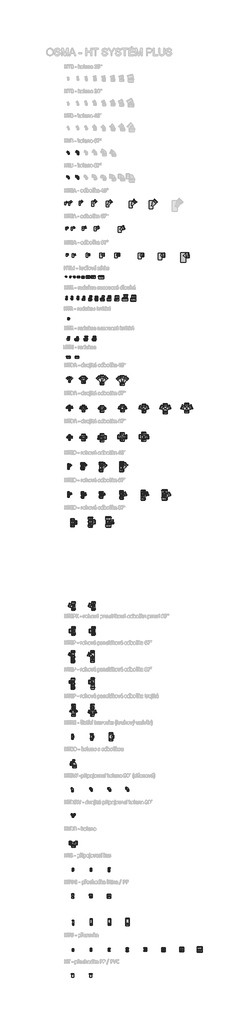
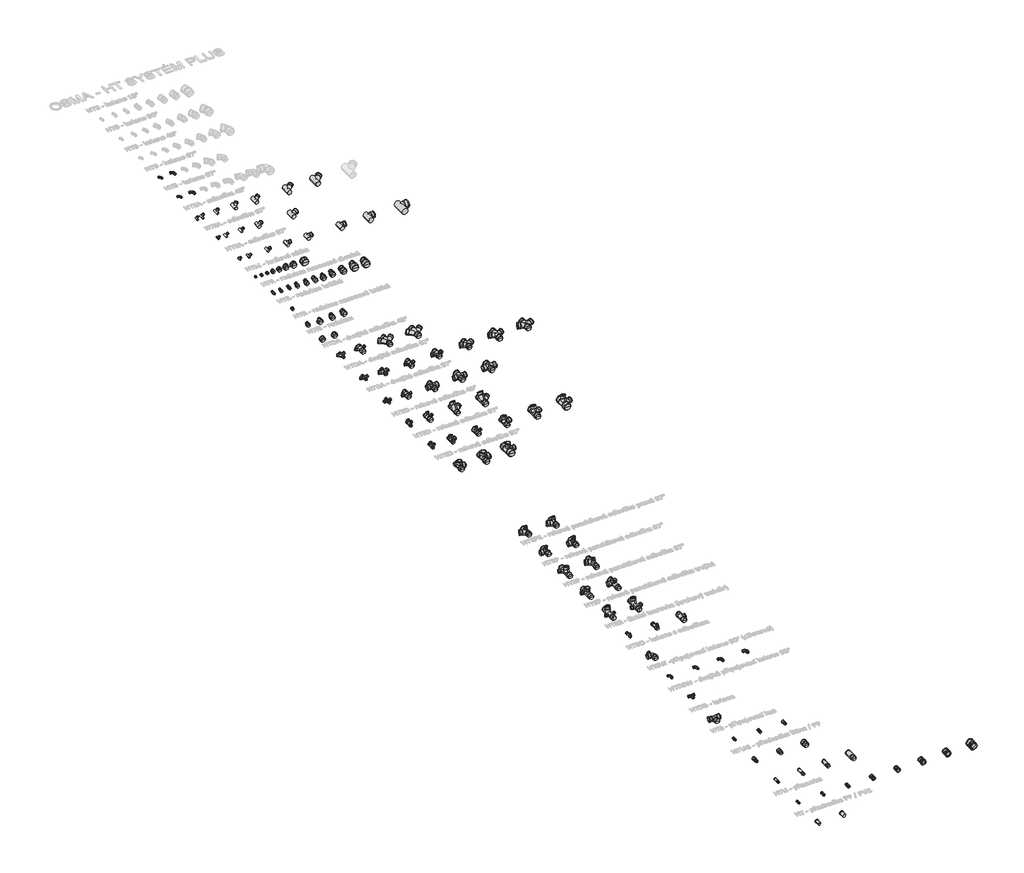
# One storey, part 1 of 26: 119 pipe fittings.
"""IFC4 building model written with IfcOpenShell, lengths in millimetres."""

from ifc_helpers import new_model, si_unit, origin, place, context, project, spatial, transform, mapped, element, save
from components import pipe_fitting_2ed9f6e7, pipe_fitting_8b978a5b, pipe_fitting_4528dc95, pipe_fitting_2cff288d, pipe_fitting_507c36dd, pipe_fitting_28f08a16, pipe_fitting_a69c1298, pipe_fitting_6399dcb3, pipe_fitting_55c88e06, pipe_fitting_f05a0327, pipe_fitting_c00d96c8, pipe_fitting_aadd152d, pipe_fitting_f14f61f6, pipe_fitting_60c93445, pipe_fitting_c0a3192c, pipe_fitting_b5a4c82e, pipe_fitting_0b0d437f, pipe_fitting_80fb3df5, pipe_fitting_b3aaeca4, pipe_fitting_336e07cd, pipe_fitting_70a3d614, pipe_fitting_bba1077c, pipe_fitting_2327c108, pipe_fitting_f7b55dbd, pipe_fitting_f0e1eda1, pipe_fitting_e0f2e87f, pipe_fitting_54cbae7a, pipe_fitting_0927ca27, pipe_fitting_798e2620, pipe_fitting_61e1075e, pipe_fitting_059f0d56, pipe_fitting_82c68f0e, pipe_fitting_7cd02927, pipe_fitting_a8bb613b, pipe_fitting_23628242, pipe_fitting_fd22e1d2, pipe_fitting_ccd48016, pipe_fitting_6e051af4, pipe_fitting_f5e5154a, pipe_fitting_384131f0, pipe_fitting_4c61564b, pipe_fitting_ac615eb9, pipe_fitting_2f1c8c0b, pipe_fitting_aed6ab42, pipe_fitting_0c0664dd, pipe_fitting_72a4b356, pipe_fitting_6e352d12, pipe_fitting_f6564ba2, pipe_fitting_c82004ce, pipe_fitting_35a15b8a, pipe_fitting_4ba81610, pipe_fitting_c2e4f513, pipe_fitting_c042d8dd, pipe_fitting_d99bf9d8, pipe_fitting_665a8a78, pipe_fitting_c704f223, pipe_fitting_5465bcce, pipe_fitting_72bf3672, pipe_fitting_739406a7, pipe_fitting_cdb1fdf9, pipe_fitting_8f208a38, pipe_fitting_5b2e1e2c, pipe_fitting_9d3bda9e, pipe_fitting_ae554451, pipe_fitting_4f15dcb3, pipe_fitting_1fac66fd, pipe_fitting_027d220c, pipe_fitting_1ce450aa, pipe_fitting_2de2056f, pipe_fitting_466a4f67, pipe_fitting_7ade68ef, pipe_fitting_702bc343, pipe_fitting_09d01d97, pipe_fitting_725b9d8f, pipe_fitting_23abaf8c, pipe_fitting_8e6235ef, pipe_fitting_1529bc69, pipe_fitting_c0e0c10d, pipe_fitting_c5070b6b, pipe_fitting_a5771a54, pipe_fitting_3548051f, pipe_fitting_a80d6788, pipe_fitting_33424f75, pipe_fitting_c7929656, pipe_fitting_0050a4eb, pipe_fitting_f10fd5be, pipe_fitting_9c596fd1, pipe_fitting_a152be7c, pipe_fitting_18b1635c, pipe_fitting_d7963361, pipe_fitting_fa9bb480, pipe_fitting_6385da66, pipe_fitting_79d1944f, pipe_fitting_8715ee71, pipe_fitting_b25ac495, pipe_fitting_57054826, pipe_fitting_a8834416, pipe_fitting_0bfdb319, pipe_fitting_e86e1e86, pipe_fitting_10db389b, pipe_fitting_b7105bf4, pipe_fitting_1bf1d1fd, pipe_fitting_71ddc9da, pipe_fitting_2f180cf2, pipe_fitting_aec229c0, pipe_fitting_05d55db8, pipe_fitting_428694dd, pipe_fitting_3d81adcc, pipe_fitting_6fac2806, pipe_fitting_e290757c, pipe_fitting_a816e6ad, pipe_fitting_9d72f216, pipe_fitting_50fed7b4, pipe_fitting_034da0cb, pipe_fitting_b09aef8b, pipe_fitting_e545edde, pipe_fitting_5e0d7752, pipe_fitting_c43976f1, pipe_fitting_2e858e45

model = new_model("IFC4")

# Units and contexts
model_context = context("Model", 3, world=origin())
ifc_project = project(units=[si_unit("LENGTHUNIT", "METRE", prefix="MILLI")], contexts=[model_context])

# Site, building, storey
site = spatial("IfcSite", under=ifc_project)
building = spatial("IfcBuilding", under=site)
storey = spatial("IfcBuildingStorey", under=building, Name="Podlaží 1", Elevation=0.0)

# Pipe fittings
placement = place(None, origin())
pipe_fitting_shape = pipe_fitting_2ed9f6e7(model_context)
element("IfcPipeFitting", 1, ObjectType="pf_HTSW : pf_HTSW", at=placement, inside=storey, context=model_context, shape_type="MappedRepresentation", body=[
    mapped(pipe_fitting_shape, transform((-20279.9309018, -2513.7868887, 0.0), x_axis=(0.0, 1.0, 0.0), y_axis=(-1.0, 0.0, 0.0), z_axis=(0.0, 0.0, 1.0))),
])
pipe_fitting_2_shape = pipe_fitting_8b978a5b(model_context)
element("IfcPipeFitting", 2, ObjectType="pf_HTSW : pf_HTSW", at=placement, inside=storey, context=model_context, shape_type="MappedRepresentation", body=[
    mapped(pipe_fitting_2_shape, transform((-18999.9309018, -2513.7868887, 0.0), x_axis=(0.0, 1.0, 0.0), y_axis=(-1.0, 0.0, 0.0), z_axis=(0.0, 0.0, 1.0))),
])
pipe_fitting_3_shape = pipe_fitting_4528dc95(model_context)
element("IfcPipeFitting", 3, ObjectType="pf_HTSW : pf_HTSW", at=placement, inside=storey, context=model_context, shape_type="MappedRepresentation", body=[
    mapped(pipe_fitting_3_shape, transform((-18379.9309018, -2513.7868887, 0.0), x_axis=(0.0, 1.0, 0.0), y_axis=(-1.0, 0.0, 0.0), z_axis=(0.0, 0.0, 1.0))),
])
pipe_fitting_4_shape = pipe_fitting_2cff288d(model_context)
element("IfcPipeFitting", 4, ObjectType="pf_HTS : pf_HTS", at=placement, inside=storey, context=model_context, shape_type="MappedRepresentation", body=[
    mapped(pipe_fitting_4_shape, transform((-19647.90786, -5285.5236889, 0.0), x_axis=(0.0, 1.0, 0.0), y_axis=(-1.0, 0.0, 0.0), z_axis=(0.0, 0.0, 1.0))),
])
pipe_fitting_5_shape = pipe_fitting_507c36dd(model_context)
element("IfcPipeFitting", 5, ObjectType="pf_HTS : pf_HTS", at=placement, inside=storey, context=model_context, shape_type="MappedRepresentation", body=[
    mapped(pipe_fitting_5_shape, transform((-20267.90786, -5285.5236889, 0.0), x_axis=(0.0, 1.0, 0.0), y_axis=(-1.0, 0.0, 0.0), z_axis=(0.0, 0.0, 1.0))),
])
pipe_fitting_6_shape = pipe_fitting_28f08a16(model_context)
element("IfcPipeFitting", 6, ObjectType="pf_HTS : pf_HTS", at=placement, inside=storey, context=model_context, shape_type="MappedRepresentation", body=[
    mapped(pipe_fitting_6_shape, transform((-19027.90786, -5285.5236889, 0.0), x_axis=(0.0, 1.0, 0.0), y_axis=(-1.0, 0.0, 0.0), z_axis=(0.0, 0.0, 1.0))),
])
pipe_fitting_7_shape = pipe_fitting_a69c1298(model_context)
element("IfcPipeFitting", 7, ObjectType="pf_HTUG : pf_HTUG", at=placement, inside=storey, context=model_context, shape_type="MappedRepresentation", body=[
    mapped(pipe_fitting_7_shape, transform((-20271.7083601, -6200.1944106, 0.0), x_axis=(0.0, 1.0, 0.0), y_axis=(-1.0, 0.0, 0.0), z_axis=(0.0, 0.0, 1.0))),
])
pipe_fitting_8_shape = pipe_fitting_6399dcb3(model_context)
element("IfcPipeFitting", 8, ObjectType="pf_HTUG : pf_HTUG", at=placement, inside=storey, context=model_context, shape_type="MappedRepresentation", body=[
    mapped(pipe_fitting_8_shape, transform((-19651.7083601, -6200.1944106, 0.0), x_axis=(0.0, 1.0, 0.0), y_axis=(-1.0, 0.0, 0.0), z_axis=(0.0, 0.0, 1.0))),
])
pipe_fitting_9_shape = pipe_fitting_55c88e06(model_context)
element("IfcPipeFitting", 9, ObjectType="pf_HTUG : pf_HTUG", at=placement, inside=storey, context=model_context, shape_type="MappedRepresentation", body=[
    mapped(pipe_fitting_9_shape, transform((-19031.7083601, -6200.1944106, 0.0), x_axis=(0.0, 1.0, 0.0), y_axis=(-1.0, 0.0, 0.0), z_axis=(0.0, 0.0, 1.0))),
])
pipe_fitting_10_shape = pipe_fitting_f05a0327(model_context)
element("IfcPipeFitting", 10, ObjectType="pf_HTL : pf_HTL", at=placement, inside=storey, context=model_context, shape_type="MappedRepresentation", body=[
    mapped(pipe_fitting_10_shape, transform((-20255.3754353, -7134.639147, 0.0), x_axis=(0.0, 1.0, 0.0), y_axis=(-1.0, 0.0, 0.0), z_axis=(0.0, 0.0, 1.0))),
])
pipe_fitting_11_shape = pipe_fitting_c00d96c8(model_context)
element("IfcPipeFitting", 11, ObjectType="pf_HTL : pf_HTL", at=placement, inside=storey, context=model_context, shape_type="MappedRepresentation", body=[
    mapped(pipe_fitting_11_shape, transform((-18395.3754353, -7144.639147, 0.0), x_axis=(0.0, 1.0, 0.0), y_axis=(-1.0, 0.0, 0.0), z_axis=(0.0, 0.0, 1.0))),
])
pipe_fitting_12_shape = pipe_fitting_aadd152d(model_context)
element("IfcPipeFitting", 12, ObjectType="pf_HTL : pf_HTL", at=placement, inside=storey, context=model_context, shape_type="MappedRepresentation", body=[
    mapped(pipe_fitting_12_shape, transform((-19015.3754353, -7144.639147, 0.0), x_axis=(0.0, 1.0, 0.0), y_axis=(-1.0, 0.0, 0.0), z_axis=(0.0, 0.0, 1.0))),
])
pipe_fitting_13_shape = pipe_fitting_f14f61f6(model_context)
element("IfcPipeFitting", 13, ObjectType="pf_HTL : pf_HTL", at=placement, inside=storey, context=model_context, shape_type="MappedRepresentation", body=[
    mapped(pipe_fitting_13_shape, transform((-19635.3754353, -7144.639147, 0.0), x_axis=(0.0, 1.0, 0.0), y_axis=(-1.0, 0.0, 0.0), z_axis=(0.0, 0.0, 1.0))),
])
pipe_fitting_14_shape = pipe_fitting_60c93445(model_context)
element("IfcPipeFitting", 14, ObjectType="pf_HTDA : pf_HTDA", at=placement, inside=storey, context=model_context, shape_type="MappedRepresentation", body=[
    mapped(pipe_fitting_14_shape, transform((-20381.3384973, 11461.0104637, 0.0), x_axis=(0.0, 1.0, 0.0), y_axis=(-1.0, 0.0, 0.0), z_axis=(0.0, 0.0, 1.0))),
])
pipe_fitting_15_shape = pipe_fitting_c0a3192c(model_context)
element("IfcPipeFitting", 15, ObjectType="pf_HTDA : pf_HTDA", at=placement, inside=storey, context=model_context, shape_type="MappedRepresentation", body=[
    mapped(pipe_fitting_15_shape, transform((-19906.3384973, 11424.6568635, 0.0), x_axis=(0.0, 1.0, 0.0), y_axis=(-1.0, 0.0, 0.0), z_axis=(0.0, 0.0, 1.0))),
])
pipe_fitting_16_shape = pipe_fitting_b5a4c82e(model_context)
element("IfcPipeFitting", 16, ObjectType="pf_HTDA : pf_HTDA", at=placement, inside=storey, context=model_context, shape_type="MappedRepresentation", body=[
    mapped(pipe_fitting_16_shape, transform((-19266.7405515, 11417.9767959, 0.0), x_axis=(0.0, 1.0, 0.0), y_axis=(-1.0, 0.0, 0.0), z_axis=(0.0, 0.0, 1.0))),
])
pipe_fitting_17_shape = pipe_fitting_0b0d437f(model_context)
element("IfcPipeFitting", 17, ObjectType="pf_HTDA : pf_HTDA", at=placement, inside=storey, context=model_context, shape_type="MappedRepresentation", body=[
    mapped(pipe_fitting_17_shape, transform((-18571.3384973, 11389.6568635, 0.0), x_axis=(0.0, 1.0, 0.0), y_axis=(-1.0, 0.0, 0.0), z_axis=(0.0, 0.0, 1.0))),
])
pipe_fitting_18_shape = pipe_fitting_80fb3df5(model_context)
element("IfcPipeFitting", 18, ObjectType="pf_HTDA : pf_HTDA", at=placement, inside=storey, context=model_context, shape_type="MappedRepresentation", body=[
    mapped(pipe_fitting_18_shape, transform((-20381.3384973, 10501.0104637, 0.0), x_axis=(0.0, 1.0, 0.0), y_axis=(-1.0, 0.0, 0.0), z_axis=(0.0, 0.0, 1.0))),
])
pipe_fitting_19_shape = pipe_fitting_b3aaeca4(model_context)
element("IfcPipeFitting", 19, ObjectType="pf_HTDA : pf_HTDA", at=placement, inside=storey, context=model_context, shape_type="MappedRepresentation", body=[
    mapped(pipe_fitting_19_shape, transform((-19266.7405515, 10457.9767959, 0.0), x_axis=(0.0, 1.0, 0.0), y_axis=(-1.0, 0.0, 0.0), z_axis=(0.0, 0.0, 1.0))),
])
pipe_fitting_20_shape = pipe_fitting_336e07cd(model_context)
element("IfcPipeFitting", 20, ObjectType="pf_HTDA : pf_HTDA", at=placement, inside=storey, context=model_context, shape_type="MappedRepresentation", body=[
    mapped(pipe_fitting_20_shape, transform((-18571.3384973, 10479.6568635, 0.0), x_axis=(0.0, 1.0, 0.0), y_axis=(-1.0, 0.0, 0.0), z_axis=(0.0, 0.0, 1.0))),
])
pipe_fitting_21_shape = pipe_fitting_70a3d614(model_context)
element("IfcPipeFitting", 21, ObjectType="pf_HTDA : pf_HTDA", at=placement, inside=storey, context=model_context, shape_type="MappedRepresentation", body=[
    mapped(pipe_fitting_21_shape, transform((-17836.3384973, 10479.6568635, 0.0), x_axis=(0.0, 1.0, 0.0), y_axis=(-1.0, 0.0, 0.0), z_axis=(0.0, 0.0, 1.0))),
])
pipe_fitting_22_shape = pipe_fitting_bba1077c(model_context)
element("IfcPipeFitting", 22, ObjectType="pf_HTDA : pf_HTDA", at=placement, inside=storey, context=model_context, shape_type="MappedRepresentation", body=[
    mapped(pipe_fitting_22_shape, transform((-17101.3384973, 10479.6568635, 0.0), x_axis=(0.0, 1.0, 0.0), y_axis=(-1.0, 0.0, 0.0), z_axis=(0.0, 0.0, 1.0))),
])
pipe_fitting_23_shape = pipe_fitting_2327c108(model_context)
element("IfcPipeFitting", 23, ObjectType="pf_HTDA : pf_HTDA", at=placement, inside=storey, context=model_context, shape_type="MappedRepresentation", body=[
    mapped(pipe_fitting_23_shape, transform((-16366.3384973, 10479.6568635, 0.0), x_axis=(0.0, 1.0, 0.0), y_axis=(-1.0, 0.0, 0.0), z_axis=(0.0, 0.0, 1.0))),
])
pipe_fitting_24_shape = pipe_fitting_f7b55dbd(model_context)
element("IfcPipeFitting", 24, ObjectType="pf_HTDA : pf_HTDA", at=placement, inside=storey, context=model_context, shape_type="MappedRepresentation", body=[
    mapped(pipe_fitting_24_shape, transform((-20381.3384973, 9511.0104637, 0.0), x_axis=(0.0, 1.0, 0.0), y_axis=(-1.0, 0.0, 0.0), z_axis=(0.0, 0.0, 1.0))),
])
pipe_fitting_25_shape = pipe_fitting_f0e1eda1(model_context)
element("IfcPipeFitting", 25, ObjectType="pf_HTDA : pf_HTDA", at=placement, inside=storey, context=model_context, shape_type="MappedRepresentation", body=[
    mapped(pipe_fitting_25_shape, transform((-19906.3384973, 9504.6568635, 0.0), x_axis=(0.0, 1.0, 0.0), y_axis=(-1.0, 0.0, 0.0), z_axis=(0.0, 0.0, 1.0))),
])
pipe_fitting_26_shape = pipe_fitting_e0f2e87f(model_context)
element("IfcPipeFitting", 26, ObjectType="pf_HTDA : pf_HTDA", at=placement, inside=storey, context=model_context, shape_type="MappedRepresentation", body=[
    mapped(pipe_fitting_26_shape, transform((-19266.7405515, 9497.9767959, 0.0), x_axis=(0.0, 1.0, 0.0), y_axis=(-1.0, 0.0, 0.0), z_axis=(0.0, 0.0, 1.0))),
])
pipe_fitting_27_shape = pipe_fitting_54cbae7a(model_context)
element("IfcPipeFitting", 27, ObjectType="pf_HTDA : pf_HTDA", at=placement, inside=storey, context=model_context, shape_type="MappedRepresentation", body=[
    mapped(pipe_fitting_27_shape, transform((-18571.3384973, 9519.6568635, 0.0), x_axis=(0.0, 1.0, 0.0), y_axis=(-1.0, 0.0, 0.0), z_axis=(0.0, 0.0, 1.0))),
])
pipe_fitting_28_shape = pipe_fitting_0927ca27(model_context)
element("IfcPipeFitting", 28, ObjectType="pf_HTDA : pf_HTDA", at=placement, inside=storey, context=model_context, shape_type="MappedRepresentation", body=[
    mapped(pipe_fitting_28_shape, transform((-17836.3384973, 9519.6568635, 0.0), x_axis=(0.0, 1.0, 0.0), y_axis=(-1.0, 0.0, 0.0), z_axis=(0.0, 0.0, 1.0))),
])
pipe_fitting_29_shape = pipe_fitting_798e2620(model_context)
element("IfcPipeFitting", 29, ObjectType="pf_HTDA : pf_HTDA", at=placement, inside=storey, context=model_context, shape_type="MappedRepresentation", body=[
    mapped(pipe_fitting_29_shape, transform((-19906.3384973, 10479.6568635, 0.0), x_axis=(0.0, 1.0, 0.0), y_axis=(-1.0, 0.0, 0.0), z_axis=(0.0, 0.0, 1.0))),
])
pipe_fitting_30_shape = pipe_fitting_61e1075e(model_context)
element("IfcPipeFitting", 30, ObjectType="pf_HTU : pf_HTU", at=placement, inside=storey, context=model_context, shape_type="MappedRepresentation", body=[
    mapped(pipe_fitting_30_shape, transform((-20264.014271, -8045.4755184, 0.0), x_axis=(0.0, 1.0, 0.0), y_axis=(-1.0, 0.0, 0.0), z_axis=(0.0, 0.0, 1.0))),
])
pipe_fitting_31_shape = pipe_fitting_059f0d56(model_context)
element("IfcPipeFitting", 31, ObjectType="pf_HTU : pf_HTU", at=placement, inside=storey, context=model_context, shape_type="MappedRepresentation", body=[
    mapped(pipe_fitting_31_shape, transform((-19644.014271, -8045.4755184, 0.0), x_axis=(0.0, 1.0, 0.0), y_axis=(-1.0, 0.0, 0.0), z_axis=(0.0, 0.0, 1.0))),
])
pipe_fitting_32_shape = pipe_fitting_82c68f0e(model_context)
element("IfcPipeFitting", 32, ObjectType="pf_HTU : pf_HTU", at=placement, inside=storey, context=model_context, shape_type="MappedRepresentation", body=[
    mapped(pipe_fitting_32_shape, transform((-19024.014271, -8045.4755184, 0.0), x_axis=(0.0, 1.0, 0.0), y_axis=(-1.0, 0.0, 0.0), z_axis=(0.0, 0.0, 1.0))),
])
pipe_fitting_33_shape = pipe_fitting_7cd02927(model_context)
element("IfcPipeFitting", 33, ObjectType="pf_HTU : pf_HTU", at=placement, inside=storey, context=model_context, shape_type="MappedRepresentation", body=[
    mapped(pipe_fitting_33_shape, transform((-18404.014271, -8045.4755184, 0.0), x_axis=(0.0, 1.0, 0.0), y_axis=(-1.0, 0.0, 0.0), z_axis=(0.0, 0.0, 1.0))),
])
pipe_fitting_34_shape = pipe_fitting_a8bb613b(model_context)
element("IfcPipeFitting", 34, ObjectType="pf_HTU : pf_HTU", at=placement, inside=storey, context=model_context, shape_type="MappedRepresentation", body=[
    mapped(pipe_fitting_34_shape, transform((-17784.014271, -8045.4755184, 0.0), x_axis=(0.0, 1.0, 0.0), y_axis=(-1.0, 0.0, 0.0), z_axis=(0.0, 0.0, 1.0))),
])
pipe_fitting_35_shape = pipe_fitting_23628242(model_context)
element("IfcPipeFitting", 35, ObjectType="pf_HTU : pf_HTU", at=placement, inside=storey, context=model_context, shape_type="MappedRepresentation", body=[
    mapped(pipe_fitting_35_shape, transform((-17164.014271, -8045.4755184, 0.0), x_axis=(0.0, 1.0, 0.0), y_axis=(-1.0, 0.0, 0.0), z_axis=(0.0, 0.0, 1.0))),
])
pipe_fitting_36_shape = pipe_fitting_fd22e1d2(model_context)
element("IfcPipeFitting", 36, ObjectType="pf_HTU : pf_HTU", at=placement, inside=storey, context=model_context, shape_type="MappedRepresentation", body=[
    mapped(pipe_fitting_36_shape, transform((-16544.014271, -8045.4755184, 0.0), x_axis=(0.0, 1.0, 0.0), y_axis=(-1.0, 0.0, 0.0), z_axis=(0.0, 0.0, 1.0))),
])
pipe_fitting_37_shape = pipe_fitting_ccd48016(model_context)
element("IfcPipeFitting", 37, ObjectType="pf_HTU : pf_HTU", at=placement, inside=storey, context=model_context, shape_type="MappedRepresentation", body=[
    mapped(pipe_fitting_37_shape, transform((-15924.014271, -8045.4755184, 0.0), x_axis=(0.0, 1.0, 0.0), y_axis=(-1.0, 0.0, 0.0), z_axis=(0.0, 0.0, 1.0))),
])
pipe_fitting_38_shape = pipe_fitting_6e051af4(model_context)
element("IfcPipeFitting", 38, ObjectType="pf_HT : pf_HT", at=placement, inside=storey, context=model_context, shape_type="MappedRepresentation", body=[
    mapped(pipe_fitting_38_shape, transform((-20273.1047893, -8920.4451797, 0.0), x_axis=(0.0, 1.0, 0.0), y_axis=(-1.0, 0.0, 0.0), z_axis=(0.0, 0.0, 1.0))),
])
pipe_fitting_39_shape = pipe_fitting_f5e5154a(model_context)
element("IfcPipeFitting", 39, ObjectType="pf_HT : pf_HT", at=placement, inside=storey, context=model_context, shape_type="MappedRepresentation", body=[
    mapped(pipe_fitting_39_shape, transform((-19653.1047893, -8920.4451797, 0.0), x_axis=(0.0, 1.0, 0.0), y_axis=(-1.0, 0.0, 0.0), z_axis=(0.0, 0.0, 1.0))),
])
pipe_fitting_40_shape = pipe_fitting_384131f0(model_context)
element("IfcPipeFitting", 40, ObjectType="pf_HTEA : pf_HTEA", at=placement, inside=storey, context=model_context, shape_type="MappedRepresentation", body=[
    mapped(pipe_fitting_40_shape, transform((-20481.3384973, 15769.6568635, 0.0), x_axis=(0.0, 1.0, 0.0), y_axis=(-1.0, 0.0, 0.0), z_axis=(0.0, 0.0, 1.0))),
])
pipe_fitting_41_shape = pipe_fitting_4c61564b(model_context)
element("IfcPipeFitting", 41, ObjectType="pf_HTEA : pf_HTEA", at=placement, inside=storey, context=model_context, shape_type="MappedRepresentation", body=[
    mapped(pipe_fitting_41_shape, transform((-20261.3384973, 15759.6568635, 0.0), x_axis=(0.0, 1.0, 0.0), y_axis=(-1.0, 0.0, 0.0), z_axis=(0.0, 0.0, 1.0))),
])
pipe_fitting_42_shape = pipe_fitting_ac615eb9(model_context)
element("IfcPipeFitting", 42, ObjectType="pf_HTEA : pf_HTEA", at=placement, inside=storey, context=model_context, shape_type="MappedRepresentation", body=[
    mapped(pipe_fitting_42_shape, transform((-19786.3384973, 15759.6568635, 0.0), x_axis=(0.0, 1.0, 0.0), y_axis=(-1.0, 0.0, 0.0), z_axis=(0.0, 0.0, 1.0))),
])
pipe_fitting_43_shape = pipe_fitting_2f1c8c0b(model_context)
element("IfcPipeFitting", 43, ObjectType="pf_HTEA : pf_HTEA", at=placement, inside=storey, context=model_context, shape_type="MappedRepresentation", body=[
    mapped(pipe_fitting_43_shape, transform((-19306.3384973, 15754.6568635, 0.0), x_axis=(0.0, 1.0, 0.0), y_axis=(-1.0, 0.0, 0.0), z_axis=(0.0, 0.0, 1.0))),
])
pipe_fitting_44_shape = pipe_fitting_aed6ab42(model_context)
element("IfcPipeFitting", 44, ObjectType="pf_HTEA : pf_HTEA", at=placement, inside=storey, context=model_context, shape_type="MappedRepresentation", body=[
    mapped(pipe_fitting_44_shape, transform((-18791.3384973, 15754.6568635, 0.0), x_axis=(0.0, 1.0, 0.0), y_axis=(-1.0, 0.0, 0.0), z_axis=(0.0, 0.0, 1.0))),
])
pipe_fitting_45_shape = pipe_fitting_0c0664dd(model_context)
element("IfcPipeFitting", 45, ObjectType="pf_HTEA : pf_HTEA", at=placement, inside=storey, context=model_context, shape_type="MappedRepresentation", body=[
    mapped(pipe_fitting_45_shape, transform((-17976.3384973, 15744.6568635, 0.0), x_axis=(0.0, 1.0, 0.0), y_axis=(-1.0, 0.0, 0.0), z_axis=(0.0, 0.0, 1.0))),
])
pipe_fitting_46_shape = pipe_fitting_72a4b356(model_context)
element("IfcPipeFitting", 46, ObjectType="pf_HTEA : pf_HTEA", at=placement, inside=storey, context=model_context, shape_type="MappedRepresentation", body=[
    mapped(pipe_fitting_46_shape, transform((-17281.3384973, 15743.1568635, 0.0), x_axis=(0.0, 1.0, 0.0), y_axis=(-1.0, 0.0, 0.0), z_axis=(0.0, 0.0, 1.0))),
])
pipe_fitting_47_shape = pipe_fitting_6e352d12(model_context)
element("IfcPipeFitting", 47, ObjectType="pf_HTEA : pf_HTEA", at=placement, inside=storey, context=model_context, shape_type="MappedRepresentation", body=[
    mapped(pipe_fitting_47_shape, transform((-16486.3384973, 15731.1568635, 0.0), x_axis=(0.0, 1.0, 0.0), y_axis=(-1.0, 0.0, 0.0), z_axis=(0.0, 0.0, 1.0))),
])
pipe_fitting_48_shape = pipe_fitting_f6564ba2(model_context)
element("IfcPipeFitting", 48, ObjectType="pf_HTEA : pf_HTEA", at=placement, inside=storey, context=model_context, shape_type="MappedRepresentation", body=[
    mapped(pipe_fitting_48_shape, transform((-20491.3384973, 16664.6568635, 0.0), x_axis=(0.0, 1.0, 0.0), y_axis=(-1.0, 0.0, 0.0), z_axis=(0.0, 0.0, 1.0))),
])
pipe_fitting_49_shape = pipe_fitting_c82004ce(model_context)
element("IfcPipeFitting", 49, ObjectType="pf_HTEA : pf_HTEA", at=placement, inside=storey, context=model_context, shape_type="MappedRepresentation", body=[
    mapped(pipe_fitting_49_shape, transform((-20301.3384973, 16664.6568635, 0.0), x_axis=(0.0, 1.0, 0.0), y_axis=(-1.0, 0.0, 0.0), z_axis=(0.0, 0.0, 1.0))),
])
pipe_fitting_50_shape = pipe_fitting_35a15b8a(model_context)
element("IfcPipeFitting", 50, ObjectType="pf_HTEA : pf_HTEA", at=placement, inside=storey, context=model_context, shape_type="MappedRepresentation", body=[
    mapped(pipe_fitting_50_shape, transform((-19921.3384973, 16664.6568635, 0.0), x_axis=(0.0, 1.0, 0.0), y_axis=(-1.0, 0.0, 0.0), z_axis=(0.0, 0.0, 1.0))),
])
pipe_fitting_51_shape = pipe_fitting_4ba81610(model_context)
element("IfcPipeFitting", 51, ObjectType="pf_HTEA : pf_HTEA", at=placement, inside=storey, context=model_context, shape_type="MappedRepresentation", body=[
    mapped(pipe_fitting_51_shape, transform((-19496.3384973, 16654.6568635, 0.0), x_axis=(0.0, 1.0, 0.0), y_axis=(-1.0, 0.0, 0.0), z_axis=(0.0, 0.0, 1.0))),
])
pipe_fitting_52_shape = pipe_fitting_c2e4f513(model_context)
element("IfcPipeFitting", 52, ObjectType="pf_HTEA : pf_HTEA", at=placement, inside=storey, context=model_context, shape_type="MappedRepresentation", body=[
    mapped(pipe_fitting_52_shape, transform((-18666.3384973, 16629.6568635, 0.0), x_axis=(0.0, 1.0, 0.0), y_axis=(-1.0, 0.0, 0.0), z_axis=(0.0, 0.0, 1.0))),
])
pipe_fitting_53_shape = pipe_fitting_c042d8dd(model_context)
element("IfcPipeFitting", 53, ObjectType="pf_HTEA : pf_HTEA", at=placement, inside=storey, context=model_context, shape_type="MappedRepresentation", body=[
    mapped(pipe_fitting_53_shape, transform((-20521.3384973, 17514.6568635, 0.0), x_axis=(0.0, 1.0, 0.0), y_axis=(-1.0, 0.0, 0.0), z_axis=(0.0, 0.0, 1.0))),
])
pipe_fitting_54_shape = pipe_fitting_d99bf9d8(model_context)
element("IfcPipeFitting", 54, ObjectType="pf_HTEA : pf_HTEA", at=placement, inside=storey, context=model_context, shape_type="MappedRepresentation", body=[
    mapped(pipe_fitting_54_shape, transform((-20391.3384973, 17514.6568635, 0.0), x_axis=(0.0, 1.0, 0.0), y_axis=(-1.0, 0.0, 0.0), z_axis=(0.0, 0.0, 1.0))),
])
pipe_fitting_55_shape = pipe_fitting_665a8a78(model_context)
element("IfcPipeFitting", 55, ObjectType="pf_HTEA : pf_HTEA", at=placement, inside=storey, context=model_context, shape_type="MappedRepresentation", body=[
    mapped(pipe_fitting_55_shape, transform((-19591.3384973, 17502.6568635, 0.0), x_axis=(0.0, 1.0, 0.0), y_axis=(-1.0, 0.0, 0.0), z_axis=(0.0, 0.0, 1.0))),
])
pipe_fitting_56_shape = pipe_fitting_c704f223(model_context)
element("IfcPipeFitting", 56, ObjectType="pf_HTEA : pf_HTEA", at=placement, inside=storey, context=model_context, shape_type="MappedRepresentation", body=[
    mapped(pipe_fitting_56_shape, transform((-19086.3384973, 17472.1568635, 0.0), x_axis=(0.0, 1.0, 0.0), y_axis=(-1.0, 0.0, 0.0), z_axis=(0.0, 0.0, 1.0))),
])
pipe_fitting_57_shape = pipe_fitting_5465bcce(model_context)
element("IfcPipeFitting", 57, ObjectType="pf_HTEA : pf_HTEA", at=placement, inside=storey, context=model_context, shape_type="MappedRepresentation", body=[
    mapped(pipe_fitting_57_shape, transform((-18286.3384973, 17454.6568635, 0.0), x_axis=(0.0, 1.0, 0.0), y_axis=(-1.0, 0.0, 0.0), z_axis=(0.0, 0.0, 1.0))),
])
pipe_fitting_58_shape = pipe_fitting_72bf3672(model_context)
element("IfcPipeFitting", 58, ObjectType="pf_HTEA : pf_HTEA", at=placement, inside=storey, context=model_context, shape_type="MappedRepresentation", body=[
    mapped(pipe_fitting_58_shape, transform((-17591.3384973, 17443.1568635, 0.0), x_axis=(0.0, 1.0, 0.0), y_axis=(-1.0, 0.0, 0.0), z_axis=(0.0, 0.0, 1.0))),
])
pipe_fitting_59_shape = pipe_fitting_739406a7(model_context)
element("IfcPipeFitting", 59, ObjectType="pf_HTED : pf_HTED", at=placement, inside=storey, context=model_context, shape_type="MappedRepresentation", body=[
    mapped(pipe_fitting_59_shape, transform((-20416.3384973, 8486.79962, 0.0), x_axis=(0.0, 1.0, 0.0), y_axis=(-1.0, 0.0, 0.0), z_axis=(0.0, 0.0, 1.0))),
])
pipe_fitting_60_shape = pipe_fitting_cdb1fdf9(model_context)
element("IfcPipeFitting", 60, ObjectType="pf_HTED : pf_HTED", at=placement, inside=storey, context=model_context, shape_type="MappedRepresentation", body=[
    mapped(pipe_fitting_60_shape, transform((-19931.3384973, 8461.79962, 0.0), x_axis=(0.0, 1.0, 0.0), y_axis=(-1.0, 0.0, 0.0), z_axis=(0.0, 0.0, 1.0))),
])
pipe_fitting_61_shape = pipe_fitting_8f208a38(model_context)
element("IfcPipeFitting", 61, ObjectType="pf_HTED : pf_HTED", at=placement, inside=storey, context=model_context, shape_type="MappedRepresentation", body=[
    mapped(pipe_fitting_61_shape, transform((-19296.3384973, 8436.79962, 0.0), x_axis=(0.0, 1.0, 0.0), y_axis=(-1.0, 0.0, 0.0), z_axis=(0.0, 0.0, 1.0))),
])
pipe_fitting_62_shape = pipe_fitting_5b2e1e2c(model_context)
element("IfcPipeFitting", 62, ObjectType="pf_HTED : pf_HTED", at=placement, inside=storey, context=model_context, shape_type="MappedRepresentation", body=[
    mapped(pipe_fitting_62_shape, transform((-18596.3384973, 8436.79962, 0.0), x_axis=(0.0, 1.0, 0.0), y_axis=(-1.0, 0.0, 0.0), z_axis=(0.0, 0.0, 1.0))),
])
pipe_fitting_63_shape = pipe_fitting_9d3bda9e(model_context)
element("IfcPipeFitting", 63, ObjectType="pf_HTED : pf_HTED", at=placement, inside=storey, context=model_context, shape_type="MappedRepresentation", body=[
    mapped(pipe_fitting_63_shape, transform((-19931.3384973, 7521.79962, 0.0), x_axis=(0.0, 1.0, 0.0), y_axis=(-1.0, 0.0, 0.0), z_axis=(0.0, 0.0, 1.0))),
])
pipe_fitting_64_shape = pipe_fitting_ae554451(model_context)
element("IfcPipeFitting", 64, ObjectType="pf_HTED : pf_HTED", at=placement, inside=storey, context=model_context, shape_type="MappedRepresentation", body=[
    mapped(pipe_fitting_64_shape, transform((-19296.3384973, 7516.79962, 0.0), x_axis=(0.0, 1.0, 0.0), y_axis=(-1.0, 0.0, 0.0), z_axis=(0.0, 0.0, 1.0))),
])
pipe_fitting_65_shape = pipe_fitting_4f15dcb3(model_context)
element("IfcPipeFitting", 65, ObjectType="pf_HTED : pf_HTED", at=placement, inside=storey, context=model_context, shape_type="MappedRepresentation", body=[
    mapped(pipe_fitting_65_shape, transform((-18596.3384973, 7516.79962, 0.0), x_axis=(0.0, 1.0, 0.0), y_axis=(-1.0, 0.0, 0.0), z_axis=(0.0, 0.0, 1.0))),
])
pipe_fitting_66_shape = pipe_fitting_1fac66fd(model_context)
element("IfcPipeFitting", 66, ObjectType="pf_HTED : pf_HTED", at=placement, inside=storey, context=model_context, shape_type="MappedRepresentation", body=[
    mapped(pipe_fitting_66_shape, transform((-17861.3384973, 7516.79962, 0.0), x_axis=(0.0, 1.0, 0.0), y_axis=(-1.0, 0.0, 0.0), z_axis=(0.0, 0.0, 1.0))),
])
pipe_fitting_67_shape = pipe_fitting_027d220c(model_context)
element("IfcPipeFitting", 67, ObjectType="pf_HTED : pf_HTED", at=placement, inside=storey, context=model_context, shape_type="MappedRepresentation", body=[
    mapped(pipe_fitting_67_shape, transform((-17126.3384973, 7496.79962, 0.0), x_axis=(0.0, 1.0, 0.0), y_axis=(-1.0, 0.0, 0.0), z_axis=(0.0, 0.0, 1.0))),
])
pipe_fitting_68_shape = pipe_fitting_1ce450aa(model_context)
element("IfcPipeFitting", 68, ObjectType="pf_HTED : pf_HTED", at=placement, inside=storey, context=model_context, shape_type="MappedRepresentation", body=[
    mapped(pipe_fitting_68_shape, transform((-20281.3384973, 6581.79962, 0.0), x_axis=(0.0, 1.0, 0.0), y_axis=(-1.0, 0.0, 0.0), z_axis=(0.0, 0.0, 1.0))),
])
pipe_fitting_69_shape = pipe_fitting_2de2056f(model_context)
element("IfcPipeFitting", 69, ObjectType="pf_HTED : pf_HTED", at=placement, inside=storey, context=model_context, shape_type="MappedRepresentation", body=[
    mapped(pipe_fitting_69_shape, transform((-19051.3384973, 6606.79962, 0.0), x_axis=(0.0, 1.0, 0.0), y_axis=(-1.0, 0.0, 0.0), z_axis=(0.0, 0.0, 1.0))),
])
pipe_fitting_70_shape = pipe_fitting_466a4f67(model_context)
element("IfcPipeFitting", 70, ObjectType="pf_HTED : pf_HTED", at=placement, inside=storey, context=model_context, shape_type="MappedRepresentation", body=[
    mapped(pipe_fitting_70_shape, transform((-19666.3384973, 6611.79962, 0.0), x_axis=(0.0, 1.0, 0.0), y_axis=(-1.0, 0.0, 0.0), z_axis=(0.0, 0.0, 1.0))),
])
pipe_fitting_71_shape = pipe_fitting_7ade68ef(model_context)
element("IfcPipeFitting", 71, ObjectType="pf_HTRE : pf_HTRE", at=placement, inside=storey, context=model_context, shape_type="MappedRepresentation", body=[
    mapped(pipe_fitting_71_shape, transform((-19621.3384973, -745.3431365, 0.0), x_axis=(0.0, 1.0, 0.0), y_axis=(-1.0, 0.0, 0.0), z_axis=(0.0, 0.0, 1.0))),
])
pipe_fitting_72_shape = pipe_fitting_702bc343(model_context)
element("IfcPipeFitting", 72, ObjectType="pf_HTRE : pf_HTRE", at=placement, inside=storey, context=model_context, shape_type="MappedRepresentation", body=[
    mapped(pipe_fitting_72_shape, transform((-18961.3384973, -745.3431365, 0.0), x_axis=(0.0, 1.0, 0.0), y_axis=(-1.0, 0.0, 0.0), z_axis=(0.0, 0.0, 1.0))),
])
pipe_fitting_73_shape = pipe_fitting_09d01d97(model_context)
element("IfcPipeFitting", 73, ObjectType="pf_HTB : pf_HTB", at=placement, inside=storey, context=model_context, shape_type="MappedRepresentation", body=[
    mapped(pipe_fitting_73_shape, transform((-20411.3384973, 18434.6568635, 0.0), x_axis=(0.0, 1.0, 0.0), y_axis=(-1.0, 0.0, 0.0), z_axis=(0.0, 0.0, 1.0))),
])
pipe_fitting_74_shape = pipe_fitting_725b9d8f(model_context)
element("IfcPipeFitting", 74, ObjectType="pf_HTB : pf_HTB", at=placement, inside=storey, context=model_context, shape_type="MappedRepresentation", body=[
    mapped(pipe_fitting_74_shape, transform((-20086.3384973, 18444.6568635, 0.0), x_axis=(0.0, 1.0, 0.0), y_axis=(-1.0, 0.0, 0.0), z_axis=(0.0, 0.0, 1.0))),
])
pipe_fitting_75_shape = pipe_fitting_23abaf8c(model_context)
element("IfcPipeFitting", 75, ObjectType="pf_HTB : pf_HTB", at=placement, inside=storey, context=model_context, shape_type="MappedRepresentation", body=[
    mapped(pipe_fitting_75_shape, transform((-20411.3384973, 19264.6568635, 0.0), x_axis=(0.0, 1.0, 0.0), y_axis=(-1.0, 0.0, 0.0), z_axis=(0.0, 0.0, 1.0))),
])
pipe_fitting_76_shape = pipe_fitting_8e6235ef(model_context)
element("IfcPipeFitting", 76, ObjectType="pf_HTB : pf_HTB", at=placement, inside=storey, context=model_context, shape_type="MappedRepresentation", body=[
    mapped(pipe_fitting_76_shape, transform((-20086.3384973, 19274.6568635, 0.0), x_axis=(0.0, 1.0, 0.0), y_axis=(-1.0, 0.0, 0.0), z_axis=(0.0, 0.0, 1.0))),
])
pipe_fitting_77_shape = pipe_fitting_1529bc69(model_context)
element("IfcPipeFitting", 77, ObjectType="pf_HTRi : pf_HTRi", at=placement, inside=storey, context=model_context, shape_type="MappedRepresentation", body=[
    mapped(pipe_fitting_77_shape, transform((-20121.3384973, 12291.0104637, -20.5779037), x_axis=(0.0, 1.0, 0.0), y_axis=(-1.0, 0.0, 0.0), z_axis=(0.0, 0.0, 1.0))),
])
pipe_fitting_78_shape = pipe_fitting_c0e0c10d(model_context)
element("IfcPipeFitting", 78, ObjectType="pf_HTR-k : pf_HTR-k", at=placement, inside=storey, context=model_context, shape_type="MappedRepresentation", body=[
    mapped(pipe_fitting_78_shape, transform((-20413.3624151, 13562.1302182, -20.5779037), x_axis=(0.0, 1.0, 0.0), y_axis=(-1.0, 0.0, 0.0), z_axis=(0.0, 0.0, 1.0))),
])
pipe_fitting_79_shape = pipe_fitting_c5070b6b(model_context)
element("IfcPipeFitting", 79, ObjectType="pf_HTR_red-nes-kratka : pf_HTR_red-nes-kratka", at=placement, inside=storey, context=model_context, shape_type="MappedRepresentation", body=[
    mapped(pipe_fitting_79_shape, transform((-20426.3384973, 12891.0104637, -20.5779037), x_axis=(0.0, 1.0, 0.0), y_axis=(-1.0, 0.0, 0.0), z_axis=(0.0, 0.0, 1.0))),
])
pipe_fitting_80_shape = pipe_fitting_a5771a54(model_context)
element("IfcPipeFitting", 80, ObjectType="pf_HTM_zatka : pf_HTM_zatka", at=placement, inside=storey, context=model_context, shape_type="MappedRepresentation", body=[
    mapped(pipe_fitting_80_shape, transform((-19299.4562492, 15033.3517778, -20.5779037), x_axis=(0.0, 1.0, 0.0), y_axis=(-1.0, 0.0, 0.0), z_axis=(0.0, 0.0, 1.0))),
])
pipe_fitting_81_shape = pipe_fitting_3548051f(model_context)
element("IfcPipeFitting", 81, ObjectType="pf_HTEA : pf_HTEA", at=placement, inside=storey, context=model_context, shape_type="MappedRepresentation", body=[
    mapped(pipe_fitting_81_shape, transform((-20031.3384973, 17514.6568635, 0.0), x_axis=(0.0, 1.0, 0.0), y_axis=(-1.0, 0.0, 0.0), z_axis=(0.0, 0.0, 1.0))),
])
pipe_fitting_82_shape = pipe_fitting_a80d6788(model_context)
element("IfcPipeFitting", 82, ObjectType="pf_HTR_red-nes-dlouha : pf_HTR_red-nes-dlouha", at=placement, inside=storey, context=model_context, shape_type="MappedRepresentation", body=[
    mapped(pipe_fitting_82_shape, transform((-20486.6922755, 14279.5153249, 0.0), x_axis=(0.0, 1.0, 0.0), y_axis=(-1.0, 0.0, 0.0), z_axis=(0.0, 0.0, 1.0))),
])
pipe_fitting_83_shape = pipe_fitting_33424f75(model_context)
element("IfcPipeFitting", 83, ObjectType="pf_HTR_red-nes-dlouha : pf_HTR_red-nes-dlouha", at=placement, inside=storey, context=model_context, shape_type="MappedRepresentation", body=[
    mapped(pipe_fitting_83_shape, transform((-20301.6922755, 14279.5153249, 0.0), x_axis=(0.0, 1.0, 0.0), y_axis=(-1.0, 0.0, 0.0), z_axis=(0.0, 0.0, 1.0))),
])
pipe_fitting_84_shape = pipe_fitting_c7929656(model_context)
element("IfcPipeFitting", 84, ObjectType="pf_HTR_red-nes-dlouha : pf_HTR_red-nes-dlouha", at=placement, inside=storey, context=model_context, shape_type="MappedRepresentation", body=[
    mapped(pipe_fitting_84_shape, transform((-20096.6922755, 14279.5153249, 0.0), x_axis=(0.0, 1.0, 0.0), y_axis=(-1.0, 0.0, 0.0), z_axis=(0.0, 0.0, 1.0))),
])
pipe_fitting_85_shape = pipe_fitting_0050a4eb(model_context)
element("IfcPipeFitting", 85, ObjectType="pf_HTR_red-nes-dlouha : pf_HTR_red-nes-dlouha", at=placement, inside=storey, context=model_context, shape_type="MappedRepresentation", body=[
    mapped(pipe_fitting_85_shape, transform((-19899.1922755, 14269.5153249, 0.0), x_axis=(0.0, 1.0, 0.0), y_axis=(-1.0, 0.0, 0.0), z_axis=(0.0, 0.0, 1.0))),
])
pipe_fitting_86_shape = pipe_fitting_f10fd5be(model_context)
element("IfcPipeFitting", 86, ObjectType="pf_HTR_red-nes-dlouha : pf_HTR_red-nes-dlouha", at=placement, inside=storey, context=model_context, shape_type="MappedRepresentation", body=[
    mapped(pipe_fitting_86_shape, transform((-19259.1922755, 14267.0153249, 0.0), x_axis=(0.0, 1.0, 0.0), y_axis=(-1.0, 0.0, 0.0), z_axis=(0.0, 0.0, 1.0))),
])
pipe_fitting_87_shape = pipe_fitting_9c596fd1(model_context)
element("IfcPipeFitting", 87, ObjectType="pf_HTR_red-nes-dlouha : pf_HTR_red-nes-dlouha", at=placement, inside=storey, context=model_context, shape_type="MappedRepresentation", body=[
    mapped(pipe_fitting_87_shape, transform((-19028.8384973, 14279.6568635, 0.0), x_axis=(0.0, 1.0, 0.0), y_axis=(-1.0, 0.0, 0.0), z_axis=(0.0, 0.0, 1.0))),
])
pipe_fitting_88_shape = pipe_fitting_a152be7c(model_context)
element("IfcPipeFitting", 88, ObjectType="pf_HTR_red-nes-dlouha : pf_HTR_red-nes-dlouha", at=placement, inside=storey, context=model_context, shape_type="MappedRepresentation", body=[
    mapped(pipe_fitting_88_shape, transform((-18761.3384973, 14272.1568635, 0.0), x_axis=(0.0, 1.0, 0.0), y_axis=(-1.0, 0.0, 0.0), z_axis=(0.0, 0.0, 1.0))),
])
pipe_fitting_89_shape = pipe_fitting_18b1635c(model_context)
element("IfcPipeFitting", 89, ObjectType="pf_HTR_red-nes-dlouha : pf_HTR_red-nes-dlouha", at=placement, inside=storey, context=model_context, shape_type="MappedRepresentation", body=[
    mapped(pipe_fitting_89_shape, transform((-18481.3384973, 14289.6568635, 0.0), x_axis=(0.0, 1.0, 0.0), y_axis=(-1.0, 0.0, 0.0), z_axis=(0.0, 0.0, 1.0))),
])
pipe_fitting_90_shape = pipe_fitting_d7963361(model_context)
element("IfcPipeFitting", 90, ObjectType="pf_HTR_red-nes-dlouha : pf_HTR_red-nes-dlouha", at=placement, inside=storey, context=model_context, shape_type="MappedRepresentation", body=[
    mapped(pipe_fitting_90_shape, transform((-18201.3384973, 14279.6568635, 0.0), x_axis=(0.0, 1.0, 0.0), y_axis=(-1.0, 0.0, 0.0), z_axis=(0.0, 0.0, 1.0))),
])
pipe_fitting_91_shape = pipe_fitting_fa9bb480(model_context)
element("IfcPipeFitting", 91, ObjectType="pf_HTR_red-nes-dlouha : pf_HTR_red-nes-dlouha", at=placement, inside=storey, context=model_context, shape_type="MappedRepresentation", body=[
    mapped(pipe_fitting_91_shape, transform((-19674.1922755, 14269.5153249, 0.0), x_axis=(0.0, 1.0, 0.0), y_axis=(-1.0, 0.0, 0.0), z_axis=(0.0, 0.0, 1.0))),
])
pipe_fitting_92_shape = pipe_fitting_6385da66(model_context)
element("IfcPipeFitting", 92, ObjectType="pf_HTR_red-nes-dlouha : pf_HTR_red-nes-dlouha", at=placement, inside=storey, context=model_context, shape_type="MappedRepresentation", body=[
    mapped(pipe_fitting_92_shape, transform((-19459.1922755, 14269.5153249, 0.0), x_axis=(0.0, 1.0, 0.0), y_axis=(-1.0, 0.0, 0.0), z_axis=(0.0, 0.0, 1.0))),
])
pipe_fitting_93_shape = pipe_fitting_79d1944f(model_context)
element("IfcPipeFitting", 93, ObjectType="pf_HTRi : pf_HTRi", at=placement, inside=storey, context=model_context, shape_type="MappedRepresentation", body=[
    mapped(pipe_fitting_93_shape, transform((-20423.8384973, 12291.0104637, -20.5779037), x_axis=(0.0, 1.0, 0.0), y_axis=(-1.0, 0.0, 0.0), z_axis=(0.0, 0.0, 1.0))),
])
pipe_fitting_94_shape = pipe_fitting_8715ee71(model_context)
element("IfcPipeFitting", 94, ObjectType="pf_HTR_red-nes-kratka : pf_HTR_red-nes-kratka", at=placement, inside=storey, context=model_context, shape_type="MappedRepresentation", body=[
    mapped(pipe_fitting_94_shape, transform((-20136.3384973, 12891.0104637, -20.5779037), x_axis=(0.0, 1.0, 0.0), y_axis=(-1.0, 0.0, 0.0), z_axis=(0.0, 0.0, 1.0))),
])
pipe_fitting_95_shape = pipe_fitting_b25ac495(model_context)
element("IfcPipeFitting", 95, ObjectType="pf_HTR_red-nes-kratka : pf_HTR_red-nes-kratka", at=placement, inside=storey, context=model_context, shape_type="MappedRepresentation", body=[
    mapped(pipe_fitting_95_shape, transform((-19826.3384973, 12891.0104637, -20.5779037), x_axis=(0.0, 1.0, 0.0), y_axis=(-1.0, 0.0, 0.0), z_axis=(0.0, 0.0, 1.0))),
])
pipe_fitting_96_shape = pipe_fitting_57054826(model_context)
element("IfcPipeFitting", 96, ObjectType="pf_HTR_red-nes-kratka : pf_HTR_red-nes-kratka", at=placement, inside=storey, context=model_context, shape_type="MappedRepresentation", body=[
    mapped(pipe_fitting_96_shape, transform((-19536.3384973, 12891.0104637, -20.5779037), x_axis=(0.0, 1.0, 0.0), y_axis=(-1.0, 0.0, 0.0), z_axis=(0.0, 0.0, 1.0))),
])
pipe_fitting_97_shape = pipe_fitting_a8834416(model_context)
element("IfcPipeFitting", 97, ObjectType="pf_HTM_zatka : pf_HTM_zatka", at=placement, inside=storey, context=model_context, shape_type="MappedRepresentation", body=[
    mapped(pipe_fitting_97_shape, transform((-20074.4562492, 15028.3517778, -20.5779037), x_axis=(0.0, 1.0, 0.0), y_axis=(0.0, 0.0, -1.0), z_axis=(-1.0, 0.0, 0.0))),
])
pipe_fitting_98_shape = pipe_fitting_0bfdb319(model_context)
element("IfcPipeFitting", 98, ObjectType="pf_HTM_zatka : pf_HTM_zatka", at=placement, inside=storey, context=model_context, shape_type="MappedRepresentation", body=[
    mapped(pipe_fitting_98_shape, transform((-20499.4562492, 15028.3517778, -20.5779037), x_axis=(0.0, 1.0, 0.0), y_axis=(-1.0, 0.0, 0.0), z_axis=(0.0, 0.0, 1.0))),
])
pipe_fitting_99_shape = pipe_fitting_e86e1e86(model_context)
element("IfcPipeFitting", 99, ObjectType="pf_HTM_zatka : pf_HTM_zatka", at=placement, inside=storey, context=model_context, shape_type="MappedRepresentation", body=[
    mapped(pipe_fitting_99_shape, transform((-20354.4562492, 15028.3517778, -20.5779037), x_axis=(0.0, 1.0, 0.0), y_axis=(-1.0, 0.0, 0.0), z_axis=(0.0, 0.0, 1.0))),
])
pipe_fitting_100_shape = pipe_fitting_10db389b(model_context)
element("IfcPipeFitting", 100, ObjectType="pf_HTM_zatka : pf_HTM_zatka", at=placement, inside=storey, context=model_context, shape_type="MappedRepresentation", body=[
    mapped(pipe_fitting_100_shape, transform((-20214.4562492, 15028.3517778, -20.5779037), x_axis=(0.0, 1.0, 0.0), y_axis=(-1.0, 0.0, 0.0), z_axis=(0.0, 0.0, 1.0))),
])
pipe_fitting_101_shape = pipe_fitting_b7105bf4(model_context)
element("IfcPipeFitting", 101, ObjectType="pf_HTM_zatka : pf_HTM_zatka", at=placement, inside=storey, context=model_context, shape_type="MappedRepresentation", body=[
    mapped(pipe_fitting_101_shape, transform((-19919.4562492, 15028.3517778, -20.5779037), x_axis=(0.0, 1.0, 0.0), y_axis=(-1.0, 0.0, 0.0), z_axis=(0.0, 0.0, 1.0))),
])
pipe_fitting_102_shape = pipe_fitting_1bf1d1fd(model_context)
element("IfcPipeFitting", 102, ObjectType="pf_HTM_zatka : pf_HTM_zatka", at=placement, inside=storey, context=model_context, shape_type="MappedRepresentation", body=[
    mapped(pipe_fitting_102_shape, transform((-19749.4562492, 15035.8517778, -20.5779037), x_axis=(0.0, 1.0, 0.0), y_axis=(-1.0, 0.0, 0.0), z_axis=(0.0, 0.0, 1.0))),
])
pipe_fitting_103_shape = pipe_fitting_71ddc9da(model_context)
element("IfcPipeFitting", 103, ObjectType="pf_HTM_zatka : pf_HTM_zatka", at=placement, inside=storey, context=model_context, shape_type="MappedRepresentation", body=[
    mapped(pipe_fitting_103_shape, transform((-19564.4562492, 15035.8517778, -20.5779037), x_axis=(0.0, 1.0, 0.0), y_axis=(-1.0, 0.0, 0.0), z_axis=(0.0, 0.0, 1.0))),
])
pipe_fitting_104_shape = pipe_fitting_2f180cf2(model_context)
element("IfcPipeFitting", 104, ObjectType="pf_HTED : pf_HTED", at=placement, inside=storey, context=model_context, shape_type="MappedRepresentation", body=[
    mapped(pipe_fitting_104_shape, transform((-20416.3384973, 7546.79962, 0.0), x_axis=(0.0, 1.0, 0.0), y_axis=(-1.0, 0.0, 0.0), z_axis=(0.0, 0.0, 1.0))),
])
pipe_fitting_105_shape = pipe_fitting_aec229c0(model_context)
element("IfcPipeFitting", 105, ObjectType="pf_HTEPKp : pf_HTEPKp", at=placement, inside=storey, context=model_context, shape_type="MappedRepresentation", body=[
    mapped(pipe_fitting_105_shape, transform((-20251.3384973, 2869.6568635, 0.0), x_axis=(0.0, 1.0, 0.0), y_axis=(1.0, 0.0, 0.0), z_axis=(0.0, 0.0, -1.0))),
])
pipe_fitting_106_shape = pipe_fitting_05d55db8(model_context)
element("IfcPipeFitting", 106, ObjectType="pf_HTEPKp : pf_HTEPKp", at=placement, inside=storey, context=model_context, shape_type="MappedRepresentation", body=[
    mapped(pipe_fitting_106_shape, transform((-20251.3384973, 3709.6568635, 0.0), x_axis=(0.0, 1.0, 0.0), y_axis=(1.0, 0.0, 0.0), z_axis=(0.0, 0.0, -1.0))),
])
pipe_fitting_107_shape = pipe_fitting_428694dd(model_context)
element("IfcPipeFitting", 107, ObjectType="pf_HTEPKp : pf_HTEPKp", at=placement, inside=storey, context=model_context, shape_type="MappedRepresentation", body=[
    mapped(pipe_fitting_107_shape, transform((-19566.3384973, 3709.6568635, 0.0), x_axis=(0.0, 1.0, 0.0), y_axis=(1.0, 0.0, 0.0), z_axis=(0.0, 0.0, -1.0))),
])
pipe_fitting_108_shape = pipe_fitting_3d81adcc(model_context)
element("IfcPipeFitting", 108, ObjectType="pf_HTEPKp : pf_HTEPKp", at=placement, inside=storey, context=model_context, shape_type="MappedRepresentation", body=[
    mapped(pipe_fitting_108_shape, transform((-19566.3384973, 2869.6568635, 0.0), x_axis=(0.0, 1.0, 0.0), y_axis=(1.0, 0.0, 0.0), z_axis=(0.0, 0.0, -1.0))),
])
pipe_fitting_109_shape = pipe_fitting_6fac2806(model_context)
element("IfcPipeFitting", 109, ObjectType="pf_HTEP : pf_HTEP", at=placement, inside=storey, context=model_context, shape_type="MappedRepresentation", body=[
    mapped(pipe_fitting_109_shape, transform((-20266.3384973, 1124.6568635, 0.0), x_axis=(0.0, 1.0, 0.0), y_axis=(1.0, 0.0, 0.0), z_axis=(0.0, 0.0, -1.0))),
])
pipe_fitting_110_shape = pipe_fitting_e290757c(model_context)
element("IfcPipeFitting", 110, ObjectType="pf_HTEP : pf_HTEP", at=placement, inside=storey, context=model_context, shape_type="MappedRepresentation", body=[
    mapped(pipe_fitting_110_shape, transform((-20266.3384973, 2034.6568635, 0.0), x_axis=(0.0, 1.0, 0.0), y_axis=(1.0, 0.0, 0.0), z_axis=(0.0, 0.0, -1.0))),
])
pipe_fitting_111_shape = pipe_fitting_a816e6ad(model_context)
element("IfcPipeFitting", 111, ObjectType="pf_HTEP : pf_HTEP", at=placement, inside=storey, context=model_context, shape_type="MappedRepresentation", body=[
    mapped(pipe_fitting_111_shape, transform((-19586.3384973, 1124.6568635, 0.0), x_axis=(0.0, 1.0, 0.0), y_axis=(1.0, 0.0, 0.0), z_axis=(0.0, 0.0, -1.0))),
])
pipe_fitting_112_shape = pipe_fitting_9d72f216(model_context)
element("IfcPipeFitting", 112, ObjectType="pf_HTEP : pf_HTEP", at=placement, inside=storey, context=model_context, shape_type="MappedRepresentation", body=[
    mapped(pipe_fitting_112_shape, transform((-19596.3384973, 2024.6568635, 0.0), x_axis=(0.0, 1.0, 0.0), y_axis=(1.0, 0.0, 0.0), z_axis=(0.0, 0.0, -1.0))),
])
pipe_fitting_113_shape = pipe_fitting_50fed7b4(model_context)
element("IfcPipeFitting", 113, ObjectType="pf_HTEPt : pf_HTEPt", at=placement, inside=storey, context=model_context, shape_type="MappedRepresentation", body=[
    mapped(pipe_fitting_113_shape, transform((-19602.7166626, 184.6568635, 0.0), x_axis=(0.0, 1.0, 0.0), y_axis=(0.0, 0.0, -1.0), z_axis=(-1.0, 0.0, 0.0))),
])
pipe_fitting_114_shape = pipe_fitting_034da0cb(model_context)
element("IfcPipeFitting", 114, ObjectType="pf_HTEPt : pf_HTEPt", at=placement, inside=storey, context=model_context, shape_type="MappedRepresentation", body=[
    mapped(pipe_fitting_114_shape, transform((-20242.7166626, 184.6568635, 0.0), x_axis=(0.0, 1.0, 0.0), y_axis=(0.0, 0.0, -1.0), z_axis=(-1.0, 0.0, 0.0))),
])
pipe_fitting_115_shape = pipe_fitting_b09aef8b(model_context)
element("IfcPipeFitting", 115, ObjectType="pf_HTRE : pf_HTRE", at=placement, inside=storey, context=model_context, shape_type="MappedRepresentation", body=[
    mapped(pipe_fitting_115_shape, transform((-20281.3384973, -745.3431365, 0.0), x_axis=(0.0, 1.0, 0.0), y_axis=(-1.0, 0.0, 0.0), z_axis=(0.0, 0.0, 1.0))),
])
pipe_fitting_116_shape = pipe_fitting_e545edde(model_context)
element("IfcPipeFitting", 116, ObjectType="pf_HTBO : pf_HTBO", at=placement, inside=storey, context=model_context, shape_type="MappedRepresentation", body=[
    mapped(pipe_fitting_116_shape, transform((-20211.5349273, -1665.4930198, 0.0), x_axis=(0.0, 1.0, 0.0), y_axis=(-1.0, 0.0, 0.0), z_axis=(0.0, 0.0, 1.0))),
])
pipe_fitting_117_shape = pipe_fitting_5e0d7752(model_context)
element("IfcPipeFitting", 117, ObjectType="pf_HTSW : pf_HTSW", at=placement, inside=storey, context=model_context, shape_type="MappedRepresentation", body=[
    mapped(pipe_fitting_117_shape, transform((-19624.9309018, -2513.7868887, 0.0), x_axis=(0.0, 1.0, 0.0), y_axis=(-1.0, 0.0, 0.0), z_axis=(0.0, 0.0, 1.0))),
])
pipe_fitting_118_shape = pipe_fitting_c43976f1(model_context)
element("IfcPipeFitting", 118, ObjectType="pf_HTDB : pf_HTDB", at=placement, inside=storey, context=model_context, shape_type="MappedRepresentation", body=[
    mapped(pipe_fitting_118_shape, transform((-20252.271912, -4393.4895009, 0.0), x_axis=(0.0, 1.0, 0.0), y_axis=(-1.0, 0.0, 0.0), z_axis=(0.0, 0.0, 1.0))),
])
pipe_fitting_119_shape = pipe_fitting_2e858e45(model_context)
element("IfcPipeFitting", 119, ObjectType="pf_HTDSW : pf_HTDSW", at=placement, inside=storey, context=model_context, shape_type="MappedRepresentation", body=[
    mapped(pipe_fitting_119_shape, transform((-20256.5653073, -3408.3050147, 0.0), x_axis=(0.0, 1.0, 0.0), y_axis=(-1.0, 0.0, 0.0), z_axis=(0.0, 0.0, 1.0))),
])

save(model, "model.ifc")
